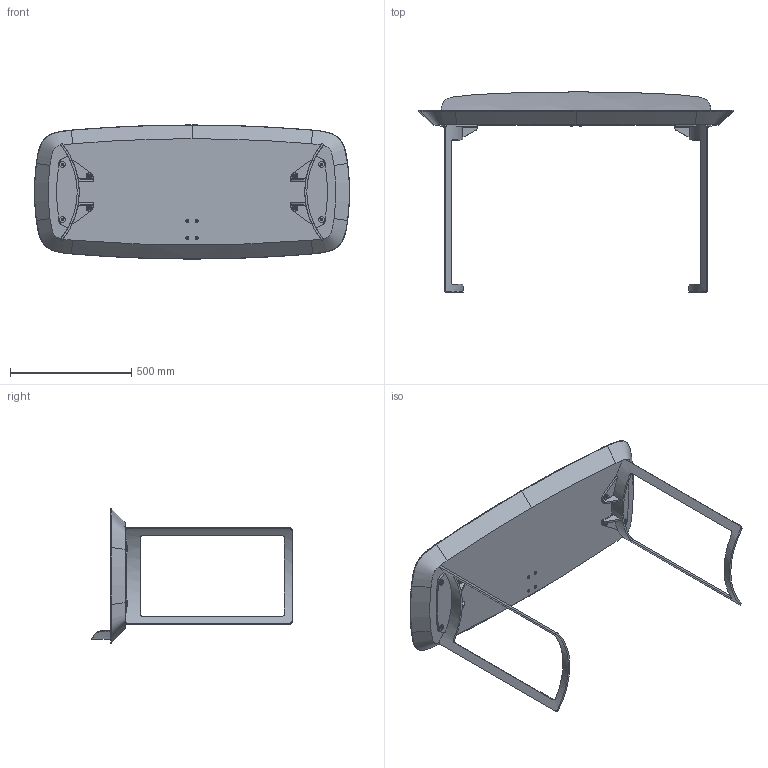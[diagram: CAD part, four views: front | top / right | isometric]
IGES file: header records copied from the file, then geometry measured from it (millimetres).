
Start section: SolidWorks IGES file using analytic representation for surfaces
Global section: file name: Y:\eforma\TECNICO\SOLIDWORKS\E-FORMA\7-SCRIVANIE\ICON\Assieme Scrivania ICON.IGS; native system: SolidWorks 2022; preprocessor: SolidWorks 2022; author: eforma.tech; date: 240909.081542; units: millimetre
Bounding box: 1301.7 x 826.94 x 554 mm (x, y, z)
Volume: 36804243.6 mm3; surface area: 3020295 mm2
Topology: 23 solids, 23 shells, 682 faces, 1630 edges, 979 vertices
Faces by surface type: revolution 445, plane 206, bspline 31
